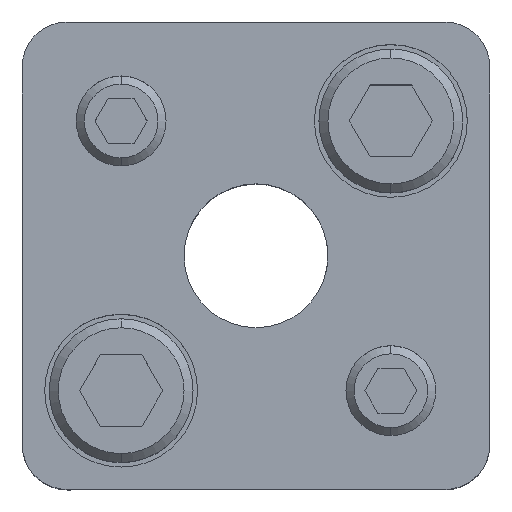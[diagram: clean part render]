
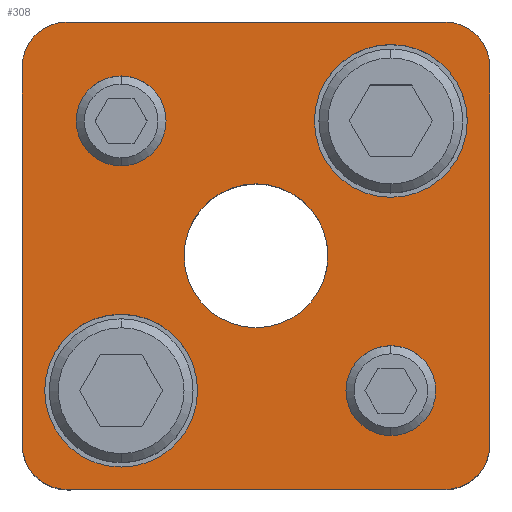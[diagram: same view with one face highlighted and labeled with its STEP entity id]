
A CAD part, top view. The second image highlights one B-rep face of the part: STEP entity #308.
In plain terms, the highlighted planar face has unit normal (0, 0, 1).
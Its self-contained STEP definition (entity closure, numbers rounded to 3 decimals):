
#165=PLANE('',#2567);
#228=FACE_BOUND('',#643,.T.);
#229=FACE_BOUND('',#644,.T.);
#230=FACE_BOUND('',#645,.T.);
#231=FACE_BOUND('',#646,.T.);
#232=FACE_BOUND('',#647,.T.);
#233=FACE_BOUND('',#648,.T.);
#308=ADVANCED_FACE('',(#228,#229,#230,#231,#232,#233),#165,.T.);
#643=EDGE_LOOP('',(#1335,#1336,#1337,#1338,#1339,#1340,#1341,#1342));
#644=EDGE_LOOP('',(#1343,#1344));
#645=EDGE_LOOP('',(#1345,#1346));
#646=EDGE_LOOP('',(#1347,#1348));
#647=EDGE_LOOP('',(#1349,#1350));
#648=EDGE_LOOP('',(#1351,#1352));
#806=LINE('',#3770,#988);
#807=LINE('',#3774,#989);
#808=LINE('',#3778,#990);
#809=LINE('',#3782,#991);
#988=VECTOR('',#3009,1.);
#989=VECTOR('',#3012,1.);
#990=VECTOR('',#3015,1.);
#991=VECTOR('',#3018,1.);
#1335=ORIENTED_EDGE('',*,*,#2102,.T.);
#1336=ORIENTED_EDGE('',*,*,#2103,.T.);
#1337=ORIENTED_EDGE('',*,*,#2104,.T.);
#1338=ORIENTED_EDGE('',*,*,#2105,.T.);
#1339=ORIENTED_EDGE('',*,*,#2106,.T.);
#1340=ORIENTED_EDGE('',*,*,#2107,.T.);
#1341=ORIENTED_EDGE('',*,*,#2108,.T.);
#1342=ORIENTED_EDGE('',*,*,#2109,.T.);
#1343=ORIENTED_EDGE('',*,*,#2110,.F.);
#1344=ORIENTED_EDGE('',*,*,#2111,.F.);
#1345=ORIENTED_EDGE('',*,*,#2112,.F.);
#1346=ORIENTED_EDGE('',*,*,#2113,.F.);
#1347=ORIENTED_EDGE('',*,*,#2088,.F.);
#1348=ORIENTED_EDGE('',*,*,#2084,.F.);
#1349=ORIENTED_EDGE('',*,*,#2082,.F.);
#1350=ORIENTED_EDGE('',*,*,#2078,.F.);
#1351=ORIENTED_EDGE('',*,*,#2114,.T.);
#1352=ORIENTED_EDGE('',*,*,#2115,.T.);
#1837=VERTEX_POINT('',#3718);
#1838=VERTEX_POINT('',#3719);
#1841=VERTEX_POINT('',#3731);
#1842=VERTEX_POINT('',#3732);
#1853=VERTEX_POINT('',#3768);
#1854=VERTEX_POINT('',#3769);
#1855=VERTEX_POINT('',#3771);
#1856=VERTEX_POINT('',#3773);
#1857=VERTEX_POINT('',#3775);
#1858=VERTEX_POINT('',#3777);
#1859=VERTEX_POINT('',#3779);
#1860=VERTEX_POINT('',#3781);
#1861=VERTEX_POINT('',#3784);
#1862=VERTEX_POINT('',#3785);
#1863=VERTEX_POINT('',#3788);
#1864=VERTEX_POINT('',#3789);
#1865=VERTEX_POINT('',#3792);
#1866=VERTEX_POINT('',#3793);
#2078=EDGE_CURVE('',#1837,#1838,#2355,.T.);
#2082=EDGE_CURVE('',#1838,#1837,#2357,.T.);
#2084=EDGE_CURVE('',#1841,#1842,#2359,.T.);
#2088=EDGE_CURVE('',#1842,#1841,#2361,.T.);
#2102=EDGE_CURVE('',#1853,#1854,#2371,.T.);
#2103=EDGE_CURVE('',#1854,#1855,#806,.T.);
#2104=EDGE_CURVE('',#1855,#1856,#2372,.T.);
#2105=EDGE_CURVE('',#1856,#1857,#807,.T.);
#2106=EDGE_CURVE('',#1857,#1858,#2373,.T.);
#2107=EDGE_CURVE('',#1858,#1859,#808,.T.);
#2108=EDGE_CURVE('',#1859,#1860,#2374,.T.);
#2109=EDGE_CURVE('',#1860,#1853,#809,.T.);
#2110=EDGE_CURVE('',#1861,#1862,#2375,.T.);
#2111=EDGE_CURVE('',#1862,#1861,#2376,.T.);
#2112=EDGE_CURVE('',#1863,#1864,#2377,.T.);
#2113=EDGE_CURVE('',#1864,#1863,#2378,.T.);
#2114=EDGE_CURVE('',#1865,#1866,#2379,.T.);
#2115=EDGE_CURVE('',#1866,#1865,#2380,.T.);
#2355=CIRCLE('',#2531,5.);
#2357=CIRCLE('',#2534,5.);
#2359=CIRCLE('',#2538,5.);
#2361=CIRCLE('',#2541,5.);
#2371=CIRCLE('',#2557,5.);
#2372=CIRCLE('',#2558,5.);
#2373=CIRCLE('',#2559,5.);
#2374=CIRCLE('',#2560,5.);
#2375=CIRCLE('',#2561,8.5);
#2376=CIRCLE('',#2562,8.5);
#2377=CIRCLE('',#2563,8.5);
#2378=CIRCLE('',#2564,8.5);
#2379=CIRCLE('',#2565,8.);
#2380=CIRCLE('',#2566,8.);
#2531=AXIS2_PLACEMENT_3D('',#3717,#2947,#2948);
#2534=AXIS2_PLACEMENT_3D('',#3726,#2955,#2956);
#2538=AXIS2_PLACEMENT_3D('',#3730,#2963,#2964);
#2541=AXIS2_PLACEMENT_3D('',#3739,#2971,#2972);
#2557=AXIS2_PLACEMENT_3D('',#3767,#3007,#3008);
#2558=AXIS2_PLACEMENT_3D('',#3772,#3010,#3011);
#2559=AXIS2_PLACEMENT_3D('',#3776,#3013,#3014);
#2560=AXIS2_PLACEMENT_3D('',#3780,#3016,#3017);
#2561=AXIS2_PLACEMENT_3D('',#3783,#3019,#3020);
#2562=AXIS2_PLACEMENT_3D('',#3786,#3021,#3022);
#2563=AXIS2_PLACEMENT_3D('',#3787,#3023,#3024);
#2564=AXIS2_PLACEMENT_3D('',#3790,#3025,#3026);
#2565=AXIS2_PLACEMENT_3D('',#3791,#3027,#3028);
#2566=AXIS2_PLACEMENT_3D('',#3794,#3029,#3030);
#2567=AXIS2_PLACEMENT_3D('',#3795,#3031,#3032);
#2947=DIRECTION('',(0.,0.,1.));
#2948=DIRECTION('',(-1.,0.,0.));
#2955=DIRECTION('',(0.,0.,1.));
#2956=DIRECTION('',(1.,0.,0.));
#2963=DIRECTION('',(0.,0.,1.));
#2964=DIRECTION('',(-1.,0.,0.));
#2971=DIRECTION('',(0.,0.,1.));
#2972=DIRECTION('',(1.,0.,0.));
#3007=DIRECTION('',(0.,0.,1.));
#3008=DIRECTION('',(-0.707,0.707,0.));
#3009=DIRECTION('',(0.,1.,0.));
#3010=DIRECTION('',(0.,0.,1.));
#3011=DIRECTION('',(-0.707,-0.707,0.));
#3012=DIRECTION('',(-1.,0.,0.));
#3013=DIRECTION('',(0.,0.,1.));
#3014=DIRECTION('',(0.707,-0.707,0.));
#3015=DIRECTION('',(0.,-1.,0.));
#3016=DIRECTION('',(0.,0.,1.));
#3017=DIRECTION('',(0.707,0.707,0.));
#3018=DIRECTION('',(1.,0.,0.));
#3019=DIRECTION('',(0.,0.,1.));
#3020=DIRECTION('',(1.,0.,0.));
#3021=DIRECTION('',(0.,0.,1.));
#3022=DIRECTION('',(-1.,0.,0.));
#3023=DIRECTION('',(0.,0.,1.));
#3024=DIRECTION('',(1.,0.,0.));
#3025=DIRECTION('',(0.,0.,1.));
#3026=DIRECTION('',(-1.,0.,0.));
#3027=DIRECTION('',(0.,0.,-1.));
#3028=DIRECTION('',(-1.,0.,0.));
#3029=DIRECTION('',(0.,0.,-1.));
#3030=DIRECTION('',(1.,0.,0.));
#3031=DIRECTION('',(0.,0.,1.));
#3032=DIRECTION('',(-1.,0.,0.));
#3717=CARTESIAN_POINT('',(15.,-15.,30.));
#3718=CARTESIAN_POINT('',(15.,-20.,30.));
#3719=CARTESIAN_POINT('',(15.,-10.,30.));
#3726=CARTESIAN_POINT('',(15.,-15.,30.));
#3730=CARTESIAN_POINT('',(-15.,15.,30.));
#3731=CARTESIAN_POINT('',(-15.,10.,30.));
#3732=CARTESIAN_POINT('',(-15.,20.,30.));
#3739=CARTESIAN_POINT('',(-15.,15.,30.));
#3767=CARTESIAN_POINT('',(21.,-21.,30.));
#3768=CARTESIAN_POINT('',(21.,-26.,30.));
#3769=CARTESIAN_POINT('',(26.,-21.,30.));
#3770=CARTESIAN_POINT('',(26.,21.,30.));
#3771=CARTESIAN_POINT('',(26.,21.,30.));
#3772=CARTESIAN_POINT('',(21.,21.,30.));
#3773=CARTESIAN_POINT('',(21.,26.,30.));
#3774=CARTESIAN_POINT('',(-21.,26.,30.));
#3775=CARTESIAN_POINT('',(-21.,26.,30.));
#3776=CARTESIAN_POINT('',(-21.,21.,30.));
#3777=CARTESIAN_POINT('',(-26.,21.,30.));
#3778=CARTESIAN_POINT('',(-26.,21.,30.));
#3779=CARTESIAN_POINT('',(-26.,-21.,30.));
#3780=CARTESIAN_POINT('',(-21.,-21.,30.));
#3781=CARTESIAN_POINT('',(-21.,-26.,30.));
#3782=CARTESIAN_POINT('',(-21.,-26.,30.));
#3783=CARTESIAN_POINT('',(15.,15.,30.));
#3784=CARTESIAN_POINT('',(15.,23.5,30.));
#3785=CARTESIAN_POINT('',(15.,6.5,30.));
#3786=CARTESIAN_POINT('',(15.,15.,30.));
#3787=CARTESIAN_POINT('',(-15.,-15.,30.));
#3788=CARTESIAN_POINT('',(-15.,-6.5,30.));
#3789=CARTESIAN_POINT('',(-15.,-23.5,30.));
#3790=CARTESIAN_POINT('',(-15.,-15.,30.));
#3791=CARTESIAN_POINT('',(0.,0.,30.));
#3792=CARTESIAN_POINT('',(0.,8.,30.));
#3793=CARTESIAN_POINT('',(0.,-8.,30.));
#3794=CARTESIAN_POINT('',(0.,0.,30.));
#3795=CARTESIAN_POINT('',(21.,-26.,30.));
